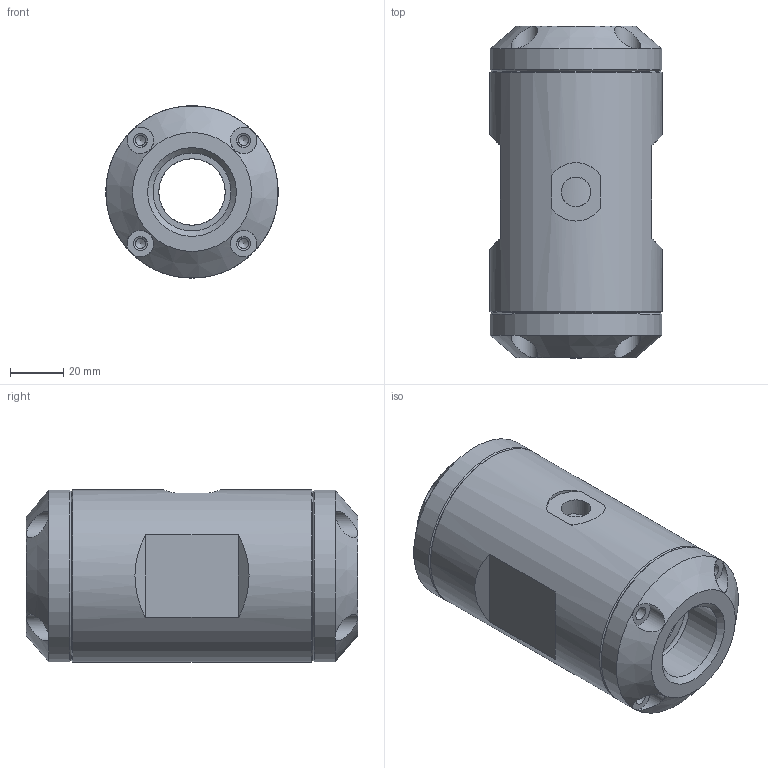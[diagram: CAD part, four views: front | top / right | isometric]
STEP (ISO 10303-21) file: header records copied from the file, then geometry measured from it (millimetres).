
FILE_DESCRIPTION(/* description */ (''),/* implementation_level */ '2;1');
FILE_NAME(/* name */ 'QV25_assembly_VEREINFACHT.stp',/* time_stamp */ '2013-09-18T19:56:02+02:00',/* author */ (''),/* organization */ (''),/* preprocessor_version */ 'ST-DEVELOPER v11',/* originating_system */ 'SIEMENS PLM Software NX 7.5',/* authorisation */ '');
FILE_SCHEMA (('AUTOMOTIVE_DESIGN { 1 0 10303 214 1 1 1 1 }'));
Length unit declared in the file: millimetre
Products named in the file (1): memd6759bye4
Bounding box: 65 x 125 x 65 mm (x, y, z)
Volume: 289569.7 mm3; surface area: 61111.9 mm2
Topology: 3 solids, 3 shells, 129 faces, 324 edges, 206 vertices
Faces by surface type: cylinder 56, cone 34, plane 31, torus 8
Full cylindrical faces by diameter (mm): 3.8 x8, 5.3 x16, 10 x8, 11.113 x1, 25 x3, 29.37 x2, 42.2 x2, 47.2 x2, 65 x3
Entity records: 3345 total; most frequent: CARTESIAN_POINT 739, DIRECTION 576, ORIENTED_EDGE 396, AXIS2_PLACEMENT_3D 275, EDGE_LOOP 228, FACE_BOUND 203, EDGE_CURVE 198, VERTEX_POINT 160
